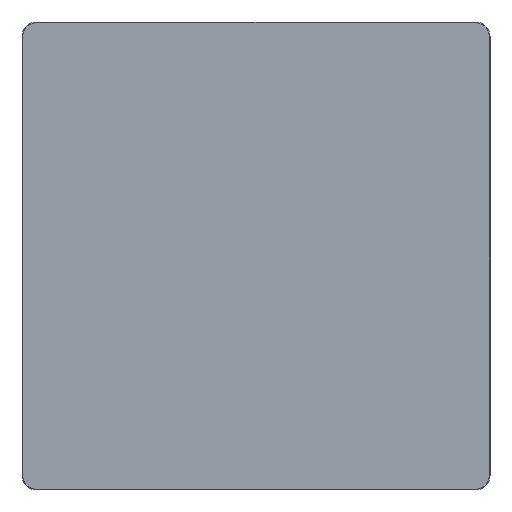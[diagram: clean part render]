
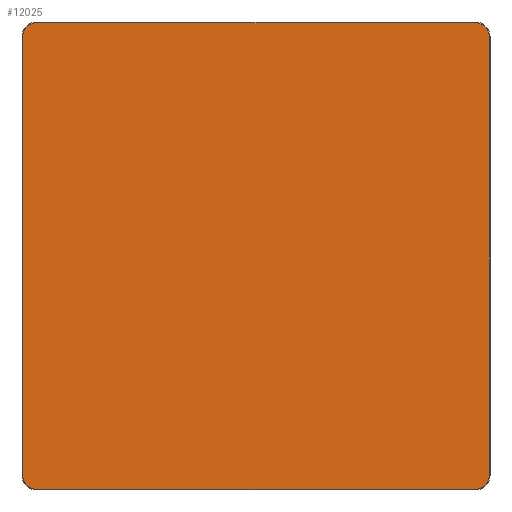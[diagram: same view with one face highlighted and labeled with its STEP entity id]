
A CAD part, top view. The second image highlights one B-rep face of the part: STEP entity #12025.
In plain terms, the highlighted planar face has unit normal (0, 0, 1).
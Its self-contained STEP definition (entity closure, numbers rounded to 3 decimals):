
#11950=CARTESIAN_POINT('',(0.,0.,20.));
#11951=DIRECTION('',(1.,0.,0.));
#11952=DIRECTION('',(0.,0.,1.));
#11953=AXIS2_PLACEMENT_3D('',#11950,#11952,#11951);
#11954=PLANE('',#11953);
#11955=CARTESIAN_POINT('',(-515.,-548.5,20.));
#11956=VERTEX_POINT('',#11955);
#11957=CARTESIAN_POINT('',(515.,-548.5,20.));
#11958=VERTEX_POINT('',#11957);
#11959=CARTESIAN_POINT('',(-515.,-548.5,20.));
#11960=DIRECTION('',(1.,0.,0.));
#11961=VECTOR('',#11960,1030.);
#11962=LINE('',#11959,#11961);
#11963=EDGE_CURVE('',#11956,#11958,#11962,.T.);
#11964=ORIENTED_EDGE('E105',*,*,#11963,.T.);
#11965=CARTESIAN_POINT('',(548.5,-515.,20.));
#11966=VERTEX_POINT('',#11965);
#11967=CARTESIAN_POINT('',(515.,-515.,20.));
#11968=DIRECTION('',(0.,-1.,0.));
#11969=DIRECTION('',(0.,0.,1.));
#11970=AXIS2_PLACEMENT_3D('',#11967,#11969,#11968);
#11971=CIRCLE('',#11970,33.5);
#11972=EDGE_CURVE('',#11958,#11966,#11971,.T.);
#11973=ORIENTED_EDGE('E107',*,*,#11972,.T.);
#11974=CARTESIAN_POINT('',(548.5,515.,20.));
#11975=VERTEX_POINT('',#11974);
#11976=CARTESIAN_POINT('',(548.5,-515.,20.));
#11977=DIRECTION('',(0.,1.,0.));
#11978=VECTOR('',#11977,1030.);
#11979=LINE('',#11976,#11978);
#11980=EDGE_CURVE('',#11966,#11975,#11979,.T.);
#11981=ORIENTED_EDGE('E109',*,*,#11980,.T.);
#11982=CARTESIAN_POINT('',(515.,548.5,20.));
#11983=VERTEX_POINT('',#11982);
#11984=CARTESIAN_POINT('',(515.,515.,20.));
#11985=DIRECTION('',(1.,0.,0.));
#11986=DIRECTION('',(0.,0.,1.));
#11987=AXIS2_PLACEMENT_3D('',#11984,#11986,#11985);
#11988=CIRCLE('',#11987,33.5);
#11989=EDGE_CURVE('',#11975,#11983,#11988,.T.);
#11990=ORIENTED_EDGE('E111',*,*,#11989,.T.);
#11991=CARTESIAN_POINT('',(-515.,548.5,20.));
#11992=VERTEX_POINT('',#11991);
#11993=CARTESIAN_POINT('',(515.,548.5,20.));
#11994=DIRECTION('',(-1.,0.,0.));
#11995=VECTOR('',#11994,1030.);
#11996=LINE('',#11993,#11995);
#11997=EDGE_CURVE('',#11983,#11992,#11996,.T.);
#11998=ORIENTED_EDGE('E113',*,*,#11997,.T.);
#11999=CARTESIAN_POINT('',(-548.5,515.,20.));
#12000=VERTEX_POINT('',#11999);
#12001=CARTESIAN_POINT('',(-515.,515.,20.));
#12002=DIRECTION('',(0.,1.,0.));
#12003=DIRECTION('',(0.,0.,1.));
#12004=AXIS2_PLACEMENT_3D('',#12001,#12003,#12002);
#12005=CIRCLE('',#12004,33.5);
#12006=EDGE_CURVE('',#11992,#12000,#12005,.T.);
#12007=ORIENTED_EDGE('E115',*,*,#12006,.T.);
#12008=CARTESIAN_POINT('',(-548.5,-515.,20.));
#12009=VERTEX_POINT('',#12008);
#12010=CARTESIAN_POINT('',(-548.5,515.,20.));
#12011=DIRECTION('',(0.,-1.,0.));
#12012=VECTOR('',#12011,1030.);
#12013=LINE('',#12010,#12012);
#12014=EDGE_CURVE('',#12000,#12009,#12013,.T.);
#12015=ORIENTED_EDGE('E117',*,*,#12014,.T.);
#12016=CARTESIAN_POINT('',(-515.,-515.,20.));
#12017=DIRECTION('',(-1.,0.,0.));
#12018=DIRECTION('',(0.,0.,1.));
#12019=AXIS2_PLACEMENT_3D('',#12016,#12018,#12017);
#12020=CIRCLE('',#12019,33.5);
#12021=EDGE_CURVE('',#12009,#11956,#12020,.T.);
#12022=ORIENTED_EDGE('E119',*,*,#12021,.T.);
#12023=EDGE_LOOP('',(#11964,#11973,#11981,#11990,#11998,#12007,#12015,#12022));
#12024=FACE_OUTER_BOUND('',#12023,.T.);
#12025=ADVANCED_FACE('F2',(#12024),#11954,.T.);
